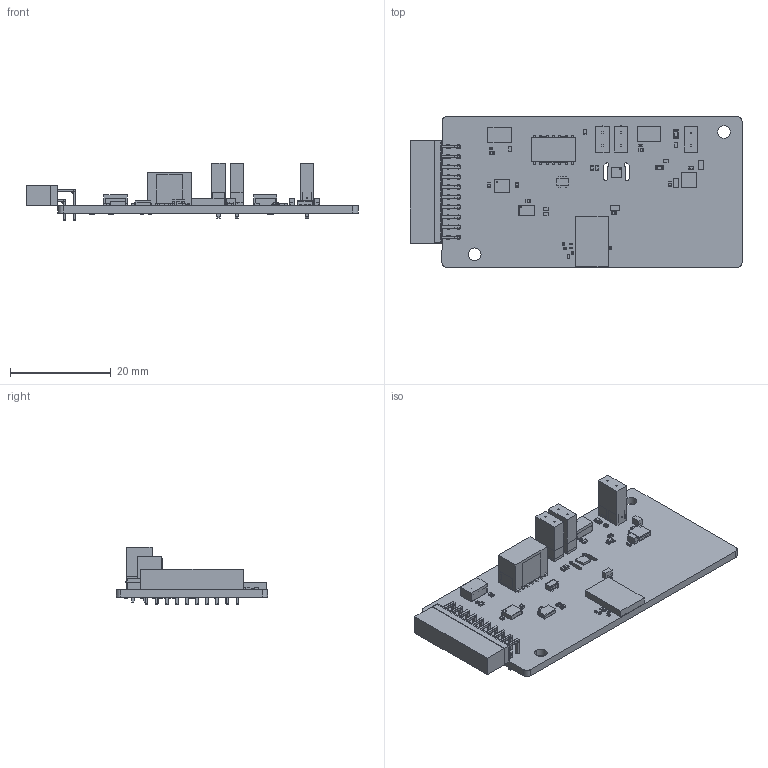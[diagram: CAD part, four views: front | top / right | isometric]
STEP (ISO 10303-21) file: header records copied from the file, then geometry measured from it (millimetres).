
FILE_DESCRIPTION(('Open CASCADE Model'),'2;1');
FILE_NAME('Open CASCADE Shape Model','2023-09-18T09:34:52',('Author'),( 'Open CASCADE'),'Open CASCADE STEP processor 7.5','Open CASCADE 7.5' ,'Unknown');
FILE_SCHEMA(('AUTOMOTIVE_DESIGN { 1 0 10303 214 1 1 1 1 }'));
Length unit declared in the file: millimetre
Products named in the file (177): PCB; Board; Open CASCADE STEP translator 7.5 1.1.1; R6; res0201-H0P23; 6787543536; Extruded; R4; 6787025504; R5; C7; Capacitors_0201_H0P3; 6787530816; C5; C6; 6787021504; SB8; R0402; 6787020704; SB20; SB10; SB6; 6787019024; SB5; C4; C0402; 6787025264; SB9; SB21; SB3; R10; SB1; CN5; TSW-102-07-G-S; _TSW-102-07-G-S_body; _T-1S6-07-TSW-1-07-2-S; 6787537696; R7; 6787530496; CN3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
Assembly tree (313 placements, depth 4):
  PCB
    Board
      Open CASCADE STEP translator 7.5 1.1.1
    R6
      res0201-H0P23
      6787543536
        Extruded
    R4
      res0201-H0P23
      6787025504
        Extruded
    R5
      res0201-H0P23
      6787025504
        Extruded
    C7
      Capacitors_0201_H0P3
      6787530816
        Extruded
    C5
      Capacitors_0201_H0P3
      6787530816
        Extruded
    C6
      Capacitors_0201_H0P3
      6787021504
        Extruded
    SB8
      R0402
      6787020704
        Extruded
    SB20
      R0402
      6787020704
        Extruded
    SB10
      R0402
      6787020704
        Extruded
    SB6
      R0402
      6787019024
        Extruded
    SB5
      R0402
      6787019024
        Extruded
    C4
      C0402
      6787025264
        Extruded
    SB9
      R0402
      6787020704
        Extruded
    SB21
      R0402
      6787020704
        Extruded
    SB3
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Bounding box: 65.9 x 30 x 11.43 mm (x, y, z)
Volume: 4660.3 mm3; surface area: 8615.7 mm2
Topology: 260 solids, 262 shells, 9729 faces, 22617 edges, 12820 vertices
Faces by surface type: plane 4197, cylinder 2714, bspline 1498, sphere 1060, torus 180, revolution 80
Full cylindrical faces by diameter (mm): 0.3 x1, 0.4 x1, 0.9 x20, 0.97 x2, 1 x6
Entity records: 87602 total; most frequent: CARTESIAN_POINT 17774, ORIENTED_EDGE 11346, DIRECTION 11100, EDGE_CURVE 5675, LINE 4780, VECTOR 4780, VERTEX_POINT 3600, AXIS2_PLACEMENT_3D 3156
